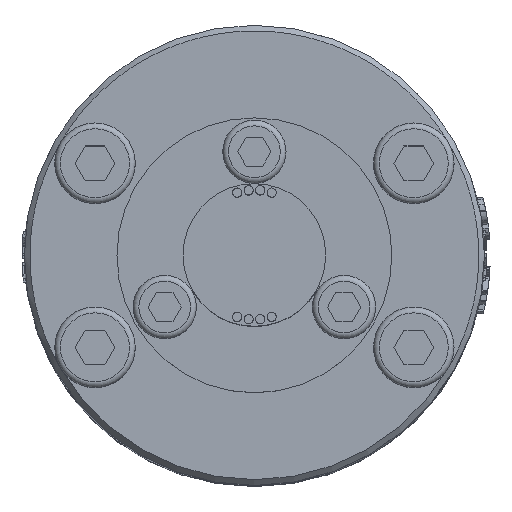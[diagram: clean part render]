
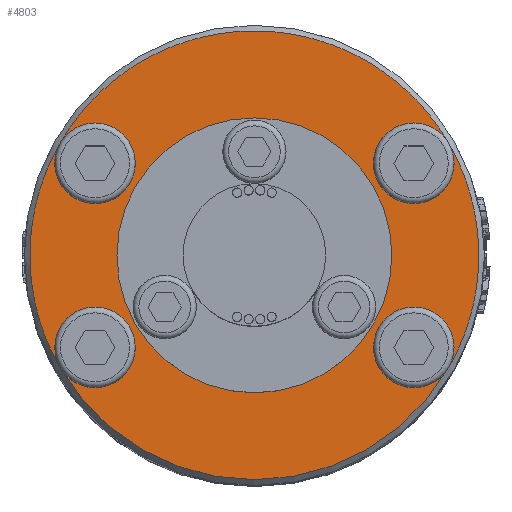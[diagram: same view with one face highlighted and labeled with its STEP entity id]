
A CAD part, top view. The second image highlights one B-rep face of the part: STEP entity #4803.
In plain terms, the highlighted planar face has unit normal (0, 0, 1).
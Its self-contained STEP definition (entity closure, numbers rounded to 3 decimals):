
#1226=PLANE('',#22393);
#1557=FACE_BOUND('',#7278,.T.);
#1558=FACE_BOUND('',#7279,.T.);
#4803=ADVANCED_FACE('',(#1557,#1558),#1226,.T.);
#7278=EDGE_LOOP('',(#15875,#15876,#15877,#15878,#15879,#15880,#15881,#15882));
#7279=EDGE_LOOP('',(#15883));
#15875=ORIENTED_EDGE('',*,*,#21116,.T.);
#15876=ORIENTED_EDGE('',*,*,#21037,.F.);
#15877=ORIENTED_EDGE('',*,*,#21115,.T.);
#15878=ORIENTED_EDGE('',*,*,#21100,.F.);
#15879=ORIENTED_EDGE('',*,*,#21114,.T.);
#15880=ORIENTED_EDGE('',*,*,#21079,.F.);
#15881=ORIENTED_EDGE('',*,*,#21117,.T.);
#15882=ORIENTED_EDGE('',*,*,#21058,.F.);
#15883=ORIENTED_EDGE('',*,*,#21010,.F.);
#17960=VERTEX_POINT('',#44182);
#17987=VERTEX_POINT('',#44257);
#18002=VERTEX_POINT('',#44303);
#18017=VERTEX_POINT('',#44349);
#18032=VERTEX_POINT('',#44395);
#21010=EDGE_CURVE('',#17960,#17960,#21341,.T.);
#21037=EDGE_CURVE('',#17987,#17987,#21362,.T.);
#21058=EDGE_CURVE('',#18002,#18002,#21365,.T.);
#21079=EDGE_CURVE('',#18017,#18017,#21368,.T.);
#21100=EDGE_CURVE('',#18032,#18032,#21371,.T.);
#21114=EDGE_CURVE('',#18032,#18017,#21373,.T.);
#21115=EDGE_CURVE('',#17987,#18032,#21374,.T.);
#21116=EDGE_CURVE('',#18002,#17987,#21375,.T.);
#21117=EDGE_CURVE('',#18017,#18002,#21376,.T.);
#21341=CIRCLE('',#22293,11.95);
#21362=CIRCLE('',#22335,3.5);
#21365=CIRCLE('',#22348,3.5);
#21368=CIRCLE('',#22361,3.5);
#21371=CIRCLE('',#22374,3.5);
#21373=CIRCLE('',#22386,19.5);
#21374=CIRCLE('',#22387,19.5);
#21375=CIRCLE('',#22388,19.5);
#21376=CIRCLE('',#22389,19.5);
#22293=AXIS2_PLACEMENT_3D('',#44181,#25330,#25331);
#22335=AXIS2_PLACEMENT_3D('',#44256,#25420,#25421);
#22348=AXIS2_PLACEMENT_3D('',#44302,#25464,#25465);
#22361=AXIS2_PLACEMENT_3D('',#44348,#25508,#25509);
#22374=AXIS2_PLACEMENT_3D('',#44394,#25552,#25553);
#22386=AXIS2_PLACEMENT_3D('',#44426,#25588,#25589);
#22387=AXIS2_PLACEMENT_3D('',#44427,#25590,#25591);
#22388=AXIS2_PLACEMENT_3D('',#44428,#25592,#25593);
#22389=AXIS2_PLACEMENT_3D('',#44429,#25594,#25595);
#22393=AXIS2_PLACEMENT_3D('',#44434,#25602,#25603);
#25330=DIRECTION('',(0.,0.,1.));
#25331=DIRECTION('',(0.,1.,0.));
#25420=DIRECTION('',(0.,0.,1.));
#25421=DIRECTION('',(1.,0.,0.));
#25464=DIRECTION('',(0.,0.,1.));
#25465=DIRECTION('',(1.,0.,0.));
#25508=DIRECTION('',(0.,0.,1.));
#25509=DIRECTION('',(1.,0.,0.));
#25552=DIRECTION('',(0.,0.,1.));
#25553=DIRECTION('',(1.,0.,0.));
#25588=DIRECTION('',(0.,0.,1.));
#25589=DIRECTION('',(1.,0.,0.));
#25590=DIRECTION('',(0.,0.,1.));
#25591=DIRECTION('',(1.,0.,0.));
#25592=DIRECTION('',(0.,0.,1.));
#25593=DIRECTION('',(1.,0.,0.));
#25594=DIRECTION('',(0.,0.,1.));
#25595=DIRECTION('',(1.,0.,0.));
#25602=DIRECTION('',(0.,0.,1.));
#25603=DIRECTION('',(1.,0.,0.));
#44181=CARTESIAN_POINT('',(0.,0.,78.));
#44182=CARTESIAN_POINT('',(0.,11.95,78.));
#44256=CARTESIAN_POINT('',(13.856,8.,78.));
#44257=CARTESIAN_POINT('',(16.887,9.75,78.));
#44302=CARTESIAN_POINT('',(13.856,-8.,78.));
#44303=CARTESIAN_POINT('',(16.887,-9.75,78.));
#44348=CARTESIAN_POINT('',(-13.856,-8.,78.));
#44349=CARTESIAN_POINT('',(-16.887,-9.75,78.));
#44394=CARTESIAN_POINT('',(-13.856,8.,78.));
#44395=CARTESIAN_POINT('',(-16.887,9.75,78.));
#44426=CARTESIAN_POINT('',(0.,0.,78.));
#44427=CARTESIAN_POINT('',(0.,0.,78.));
#44428=CARTESIAN_POINT('',(0.,0.,78.));
#44429=CARTESIAN_POINT('',(0.,0.,78.));
#44434=CARTESIAN_POINT('',(0.,0.,78.));
